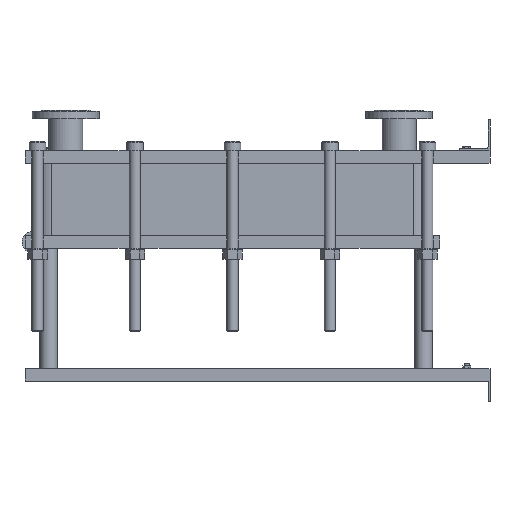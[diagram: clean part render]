
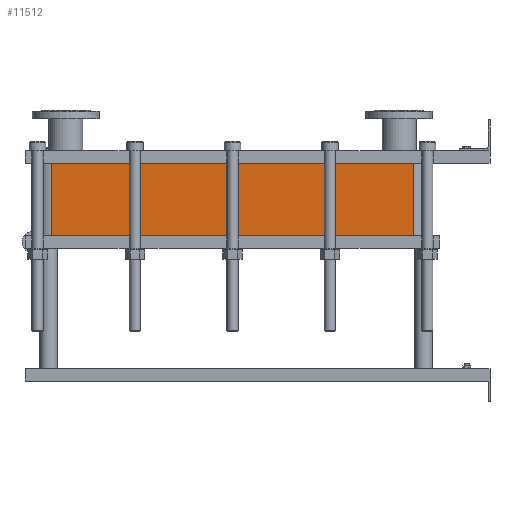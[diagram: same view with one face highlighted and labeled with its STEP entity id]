
A CAD part, left-side view. The second image highlights one B-rep face of the part: STEP entity #11512.
In plain terms, the highlighted planar face has unit normal (-1, 0, 0).
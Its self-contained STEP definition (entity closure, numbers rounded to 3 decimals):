
#1129=LINE('',#23232,#2102);
#1130=LINE('',#23236,#2103);
#1131=LINE('',#23238,#2104);
#1132=LINE('',#23239,#2105);
#2102=VECTOR('',#15887,10.);
#2103=VECTOR('',#15892,10.);
#2104=VECTOR('',#15893,10.);
#2105=VECTOR('',#15894,10.);
#3267=FACE_OUTER_BOUND('',#4093,.T.);
#4093=EDGE_LOOP('',(#10103,#10104,#10105,#10106));
#5642=VERTEX_POINT('',#23229);
#5643=VERTEX_POINT('',#23231);
#5644=VERTEX_POINT('',#23235);
#5645=VERTEX_POINT('',#23237);
#7159=EDGE_CURVE('',#5643,#5642,#1129,.T.);
#7161=EDGE_CURVE('',#5642,#5644,#1130,.T.);
#7162=EDGE_CURVE('',#5645,#5644,#1131,.T.);
#7163=EDGE_CURVE('',#5645,#5643,#1132,.T.);
#10103=ORIENTED_EDGE('',*,*,#7161,.T.);
#10104=ORIENTED_EDGE('',*,*,#7162,.F.);
#10105=ORIENTED_EDGE('',*,*,#7163,.T.);
#10106=ORIENTED_EDGE('',*,*,#7159,.T.);
#10857=PLANE('',#12751);
#11512=ADVANCED_FACE('',(#3267),#10857,.T.);
#12751=AXIS2_PLACEMENT_3D('',#23234,#15890,#15891);
#15887=DIRECTION('',(0.,0.,-1.));
#15890=DIRECTION('center_axis',(-1.,0.,0.));
#15891=DIRECTION('ref_axis',(0.,1.,0.));
#15892=DIRECTION('',(0.,-1.,0.));
#15893=DIRECTION('',(0.,0.,-1.));
#15894=DIRECTION('',(0.,1.,0.));
#23229=CARTESIAN_POINT('',(-200.,1414.,-234.6));
#23231=CARTESIAN_POINT('',(-200.,1414.,0.));
#23232=CARTESIAN_POINT('',(-200.,1414.,0.));
#23234=CARTESIAN_POINT('Origin',(-200.,248.,0.));
#23235=CARTESIAN_POINT('',(-200.,248.,-234.6));
#23236=CARTESIAN_POINT('',(-200.,539.5,-234.6));
#23237=CARTESIAN_POINT('',(-200.,248.,0.));
#23238=CARTESIAN_POINT('',(-200.,248.,0.));
#23239=CARTESIAN_POINT('',(-200.,248.,0.));
